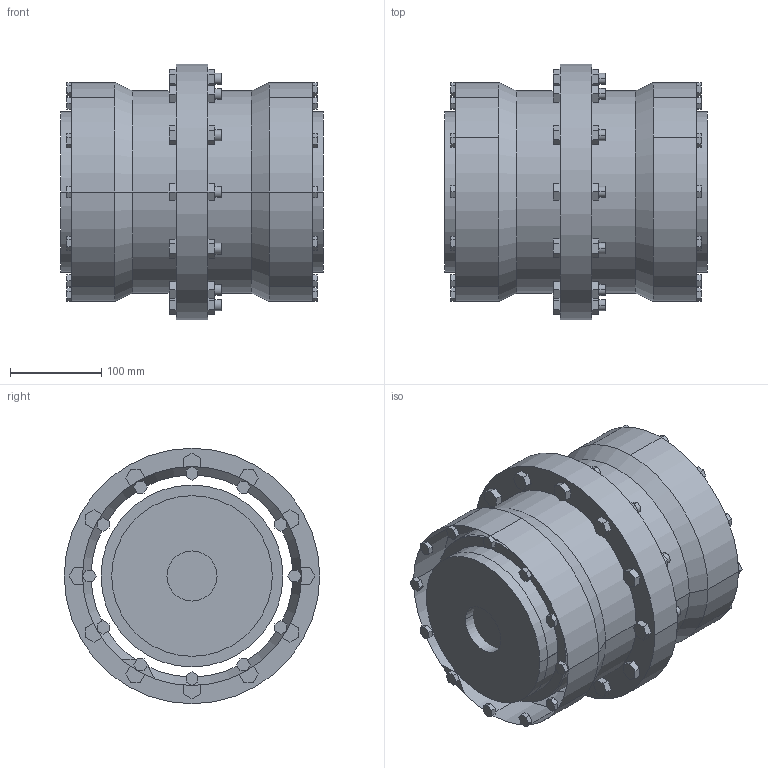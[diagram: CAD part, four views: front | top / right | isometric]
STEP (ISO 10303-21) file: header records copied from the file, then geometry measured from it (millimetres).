
FILE_DESCRIPTION((''),'2;1');
FILE_NAME('A18978700-0_ASM','2018-09-26T',('AB_Roschiwal'),('RENK AG'),'PRO/ENGINEER BY PARAMETRIC TECHNOLOGY CORPORATION, 2015440','PRO/ENGINEER BY PARAMETRIC TECHNOLOGY CORPORATION, 2015440','');
FILE_SCHEMA(('CONFIG_CONTROL_DESIGN'));
Length unit declared in the file: millimetre
Products named in the file (3): SBK110_GEHAEUSE; SBK110_NABE; A18978700-0_ASM
Assembly tree (3 placements, depth 2):
  A18978700-0_ASM
    SBK110_GEHAEUSE
    SBK110_NABE  x2
Bounding box: 288 x 280 x 280 mm (x, y, z)
Volume: 10430386.8 mm3; surface area: 731249.5 mm2
Topology: 3 solids, 3 shells, 422 faces, 1152 edges, 732 vertices
Faces by surface type: plane 362, cylinder 56, cone 4
Entity records: 12156 total; most frequent: CARTESIAN_POINT 2116, ORIENTED_EDGE 2064, DIRECTION 1980, EDGE_CURVE 1032, VECTOR 916, LINE 916, VERTEX_POINT 668, AXIS2_PLACEMENT_3D 532
